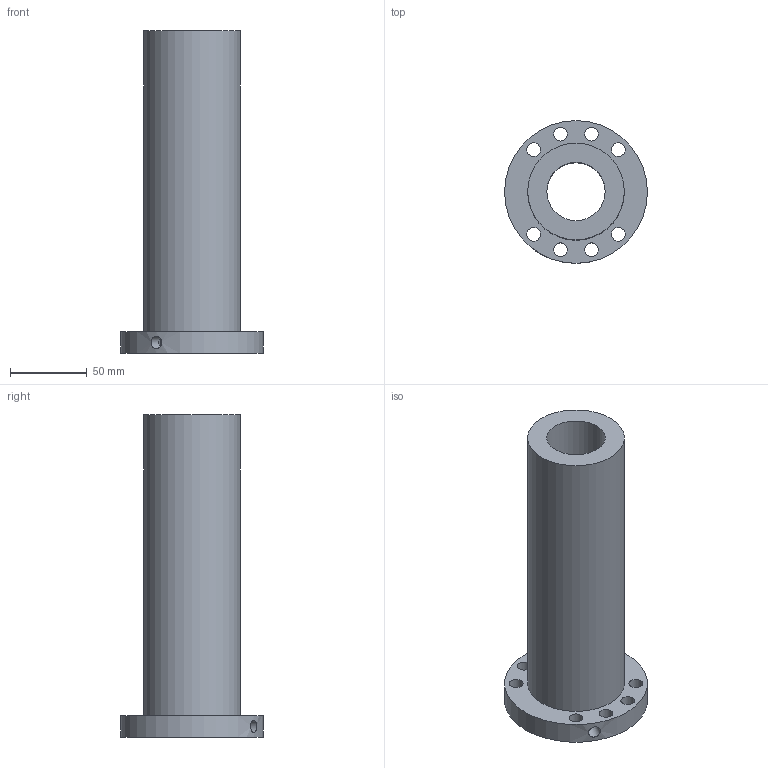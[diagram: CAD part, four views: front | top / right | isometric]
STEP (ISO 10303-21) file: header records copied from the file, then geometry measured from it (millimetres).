
FILE_DESCRIPTION(/* description */ (''),/* implementation_level */ '2;1');
FILE_NAME(/* name */ '38-40K2_635',/* time_stamp */ '2007-10-15T12:53:58+08:00',/* author */ (''),/* organization */ (''),/* preprocessor_version */ 'ST-DEVELOPER v11',/* originating_system */ 'UGS - NX 5.0',/* authorisation */ '');
FILE_SCHEMA (('CONFIG_CONTROL_DESIGN'));
Length unit declared in the file: millimetre
Products named in the file (1): 38-40K2_635
Bounding box: 93 x 93 x 210 mm (x, y, z)
Volume: 459794.9 mm3; surface area: 81943.7 mm2
Topology: 1 solids, 1 shells, 17 faces, 40 edges, 27 vertices
Faces by surface type: cylinder 13, plane 4
Full cylindrical faces by diameter (mm): 6 x1, 8 x1, 9 x8, 38 x1, 63 x1, 93 x1
Entity records: 668 total; most frequent: CARTESIAN_POINT 184, DIRECTION 84, FACE_BOUND 52, EDGE_LOOP 52, ORIENTED_EDGE 52, AXIS2_PLACEMENT_3D 42, VERTEX_POINT 26, EDGE_CURVE 26
